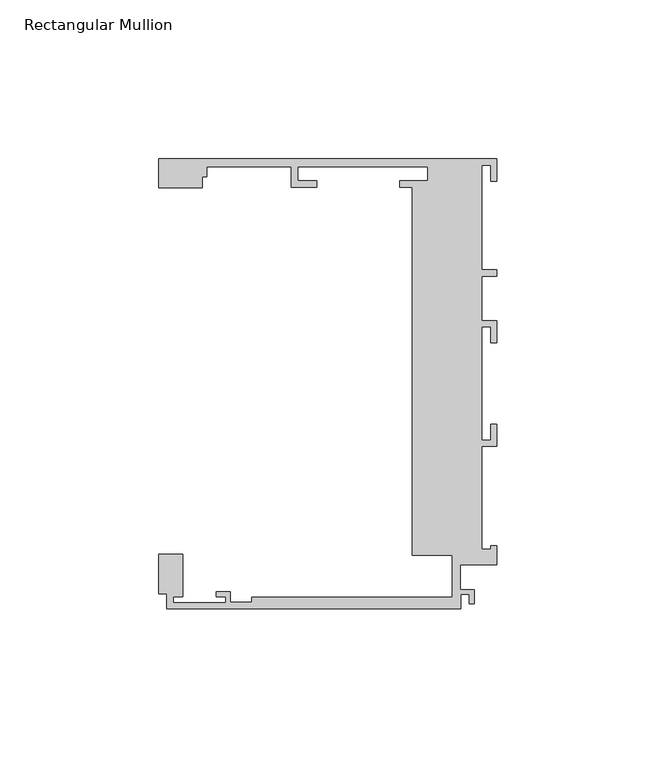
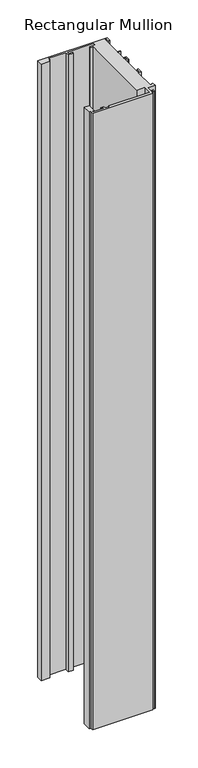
"""IFC4 building model written with IfcOpenShell, lengths in millimetres: member geometry, Rectangular Mullion : Danpal_K12_End-Mullion_B1."""

from ifc_helpers import new_model, si_unit, frame, origin, place, context, project, spatial, polyline, outline, extrude, source, transform, mapped, element, save


def rectangular_mullion_f1b3a113(model_context):
    return source(origin(), model_context, "Body", "SweptSolid", [
        extrude(outline(polyline([(-26.6209612, 117.8676658), (-30.6, 117.8676658), (-30.6, 119.8676658), (-21.835, 119.8676658), (-21.835, 124.2676658), (-62.7350275, 124.2676658), (-62.7350275, 119.8676658), (-56.7350275, 119.8676658), (-56.7350275, 117.8676658), (-64.7350275, 117.8676658), (-64.7350275, 124.2676658), (-91.2900275, 124.2676658), (-91.2900275, 121.0676175), (-92.8228167, 121.0676175), (-92.8228167, 117.6986749), (-106.4117426, 117.6986749), (-106.4117426, 126.7676657), (0.0, 126.7676657), (0.0, 119.7676657), (-2.0, 119.7676657), (-2.0, 124.7676657), (-4.8, 124.7676657), (-4.8, 91.8676485), (0.0, 91.8676485), (0.0, 89.8676485), (-4.8, 89.8676485), (-4.8, 75.867683), (0.0, 75.867683), (0.0, 68.8676657), (-2.0, 68.8676657), (-2.0, 73.8676657), (-4.8, 73.8676657), (-4.8, 38.2443486), (-2.0, 38.2443486), (-2.0, 43.2443486), (0.0, 43.2443486), (0.0, 36.2443486), (-4.8, 36.2443486), (-4.8, 3.9448486), (-2.0, 3.9448486), (-2.0, 4.9448486), (0.0, 4.9448486), (0.0, -1.0551514), (-11.6055875, -1.0551514), (-11.6055875, -8.8006425), (-7.1518595, -8.8006425), (-7.1518595, -13.3051514), (-8.6518595, -13.3051514), (-8.6518595, -10.3006425), (-11.4019537, -10.3006425), (-11.4019537, -14.8051514), (-103.8999976, -14.8051514), (-103.8999976, -10.065304), (-106.4117426, -10.065304), (-106.4117426, 2.316674), (-98.8999976, 2.316674), (-98.8999976, -11.0051513), (-101.8999976, -11.0051513), (-101.8999976, -13.0051512), (-85.3999976, -13.0051512), (-85.3999976, -11.0051513), (-88.3999976, -11.0051513), (-88.3999976, -9.5051512), (-83.8999976, -9.5051512), (-83.8999976, -12.8051513), (-77.1531178, -12.8051513), (-77.1531178, -11.3051512), (-14.1055875, -11.3051512), (-14.1055875, 1.9446289), (-26.6209612, 1.9446289), (-26.6209612, 117.8676658)])), frame((0.0, 0.0, -1000.0), z_axis=(0.0, 0.0, 1.0), x_axis=(1.0, 0.0, 0.0)), (0.0, 0.0, 1.0), 1000.0),
    ])


if __name__ == "__main__":
    model = new_model("IFC4")
    model_context = context("Model", 3, world=origin())
    ifc_project = project(units=[si_unit("LENGTHUNIT", "METRE", prefix="MILLI")], contexts=[model_context])
    site = spatial("IfcSite", under=ifc_project)
    building = spatial("IfcBuilding", under=site)
    placement = place(None, origin())
    rectangular_mullion_shape = rectangular_mullion_f1b3a113(model_context)
    element("IfcMember", 1, ObjectType="Rectangular Mullion : Danpal_K12_End-Mullion_B1", at=placement, inside=building, context=model_context, shape_type="MappedRepresentation", body=[
        mapped(rectangular_mullion_shape, transform((0.0, 0.0, 0.0), x_axis=(1.0, 0.0, 0.0), y_axis=(0.0, 1.0, 0.0), z_axis=(0.0, 0.0, 1.0))),
    ])
    save(model, "model.ifc")
